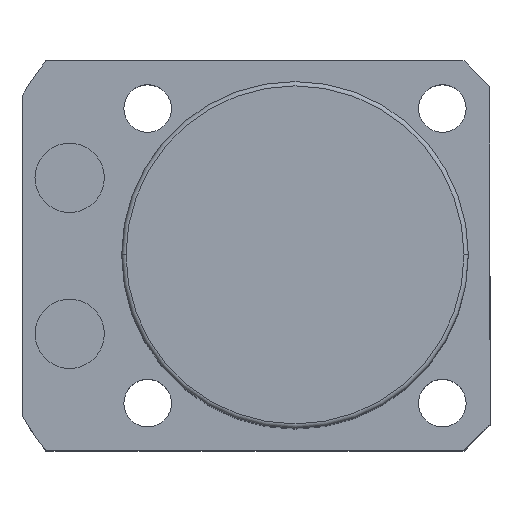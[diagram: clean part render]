
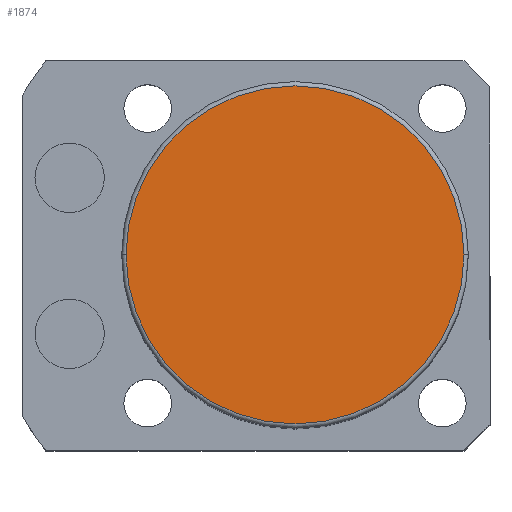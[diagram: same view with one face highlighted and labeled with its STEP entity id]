
A CAD part, top view. The second image highlights one B-rep face of the part: STEP entity #1874.
In plain terms, the highlighted planar face has unit normal (0, 0, 1).
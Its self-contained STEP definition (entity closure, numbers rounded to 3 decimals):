
#75 = CARTESIAN_POINT ( 'NONE',  ( 0., 0., 73.5 ) ) ;
#203 = EDGE_CURVE ( 'NONE', #1312, #1869, #1606, .T. ) ;
#217 = DIRECTION ( 'NONE',  ( 1., 0., 0. ) ) ;
#233 = DIRECTION ( 'NONE',  ( 0., 0., 1. ) ) ;
#499 = CIRCLE ( 'NONE', #1369, 19.5 ) ;
#596 = ORIENTED_EDGE ( 'NONE', *, *, #203, .T. ) ;
#644 = FACE_OUTER_BOUND ( 'NONE', #2146, .T. ) ;
#767 = CARTESIAN_POINT ( 'NONE',  ( 0., 0., 73.5 ) ) ;
#934 = PLANE ( 'NONE',  #1890 ) ;
#1118 = DIRECTION ( 'NONE',  ( 1., 0., 0. ) ) ;
#1312 = VERTEX_POINT ( 'NONE', #1722 ) ;
#1369 = AXIS2_PLACEMENT_3D ( 'NONE', #75, #233, #1708 ) ;
#1558 = AXIS2_PLACEMENT_3D ( 'NONE', #767, #1857, #217 ) ;
#1606 = CIRCLE ( 'NONE', #1558, 19.5 ) ;
#1662 = CARTESIAN_POINT ( 'NONE',  ( 0., 0., 73.5 ) ) ;
#1708 = DIRECTION ( 'NONE',  ( 1., 0., 0. ) ) ;
#1722 = CARTESIAN_POINT ( 'NONE',  ( 19.5, 0., 73.5 ) ) ;
#1857 = DIRECTION ( 'NONE',  ( 0., 0., 1. ) ) ;
#1869 = VERTEX_POINT ( 'NONE', #2019 ) ;
#1874 = ADVANCED_FACE ( 'NONE', ( #644 ), #934, .T. ) ;
#1890 = AXIS2_PLACEMENT_3D ( 'NONE', #1662, #2034, #1118 ) ;
#1953 = ORIENTED_EDGE ( 'NONE', *, *, #1970, .T. ) ;
#1970 = EDGE_CURVE ( 'NONE', #1869, #1312, #499, .T. ) ;
#2019 = CARTESIAN_POINT ( 'NONE',  ( -19.5, 0., 73.5 ) ) ;
#2034 = DIRECTION ( 'NONE',  ( 0., 0., 1. ) ) ;
#2146 = EDGE_LOOP ( 'NONE', ( #596, #1953 ) ) ;
